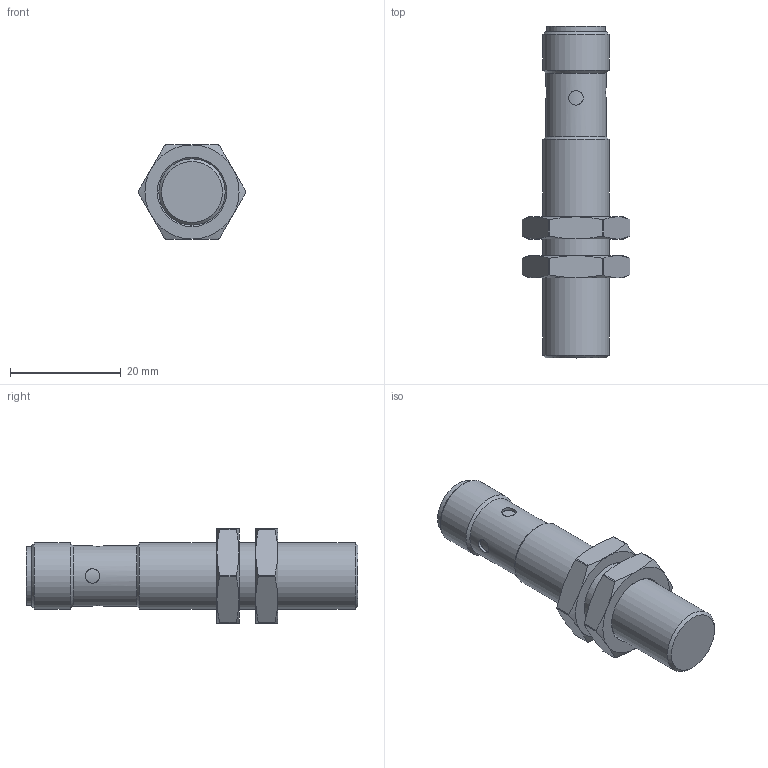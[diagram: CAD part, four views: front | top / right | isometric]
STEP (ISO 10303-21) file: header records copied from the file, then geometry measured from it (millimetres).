
FILE_DESCRIPTION((''),'2;1');
FILE_NAME('C:\TurckZip\BiFE-M12FE-X-H1.stp','2009-10-05T11:40:51',('IKOROL'),(''),'Autodesk Inventor 2009','Autodesk Inventor 2009','');
FILE_SCHEMA(('CONFIG_CONTROL_DESIGN'));
Length unit declared in the file: millimetre
Products named in the file (1): Part2
Bounding box: 19.5 x 60 x 17 mm (x, y, z)
Volume: 7097 mm3; surface area: 3778.9 mm2
Topology: 1 solids, 2 shells, 135 faces, 315 edges, 197 vertices
Faces by surface type: cylinder 53, plane 38, cone 37, torus 4, bspline 3
Full cylindrical faces by diameter (mm): 1 x8, 2.6 x4, 8 x1, 8.3 x1, 9.6 x1, 9.9 x1, 10.5 x1, 11 x1, 12 x4
Entity records: 4186 total; most frequent: CARTESIAN_POINT 1236, DIRECTION 596, ORIENTED_EDGE 516, AXIS2_PLACEMENT_3D 263, EDGE_CURVE 258, EDGE_LOOP 192, VERTEX_POINT 182, FACE_OUTER_BOUND 135
